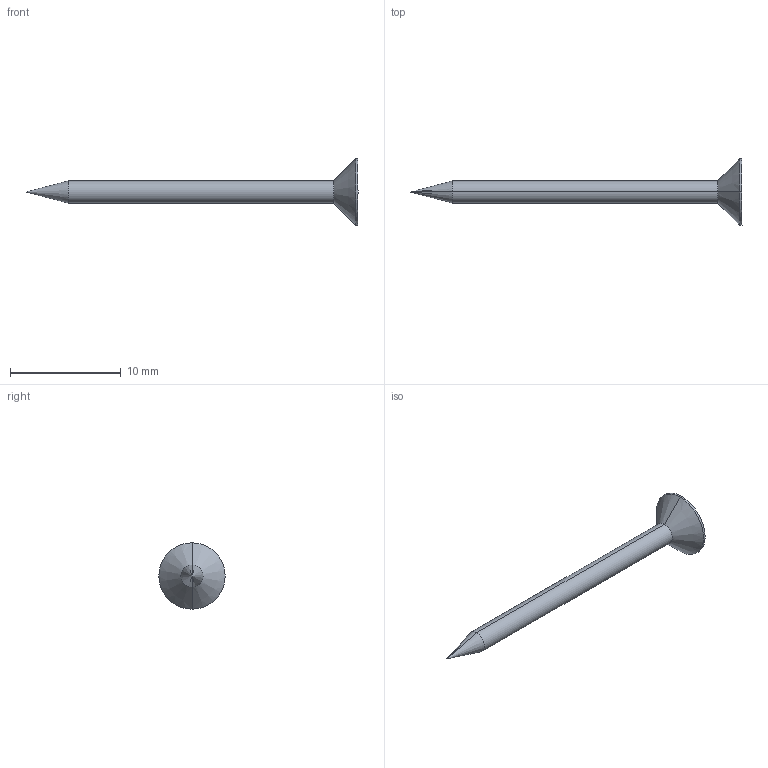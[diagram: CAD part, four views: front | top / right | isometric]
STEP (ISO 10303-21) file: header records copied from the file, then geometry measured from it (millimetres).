
FILE_DESCRIPTION (( 'STEP AP203' ), '1' );
FILE_NAME ('Vionaro V8 Schraube rechts.step', '2022-04-13T05:56:46', ( '' ), ( '' ), 'SwSTEP 2.0', 'SolidWorks 2021', '' );
FILE_SCHEMA (( 'CONFIG_CONTROL_DESIGN' ));
Length unit declared in the file: millimetre
Products named in the file (1): Vionaro V8 Schraube rechts
Bounding box: 30 x 6 x 6 mm (x, y, z)
Volume: 111.4 mm3; surface area: 237.6 mm2
Topology: 1 solids, 1 shells, 22 faces, 54 edges, 33 vertices
Faces by surface type: plane 14, cone 4, cylinder 4
Entity records: 701 total; most frequent: CARTESIAN_POINT 108, DIRECTION 106, ORIENTED_EDGE 104, EDGE_CURVE 52, LINE 44, VECTOR 44, VERTEX_POINT 33, AXIS2_PLACEMENT_3D 31
